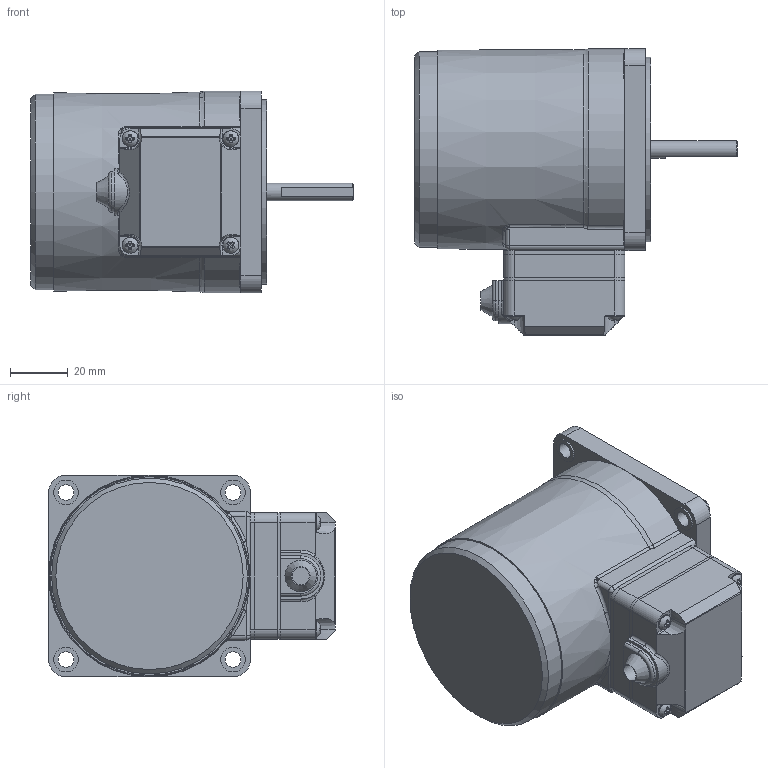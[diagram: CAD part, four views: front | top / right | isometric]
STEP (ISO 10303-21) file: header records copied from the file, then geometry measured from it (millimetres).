
FILE_DESCRIPTION((''),'2;1');
FILE_NAME('D:\김성묵\업무폴더\개발 파일\프로젝트 개발 AB등급\AC표준형 개발자료\90각 이하 표준형 개발\도면작성 자료\3D 도면\홈페이지용 3D 파일\15W MOTOR\T BOX TYPE\S7I15D_T.stp','2015-03-26T15:57:14',('smkim'),(''),'Autodesk Inventor 2012','Autodesk Inventor 2012','');
FILE_SCHEMA(('AUTOMOTIVE_DESIGN { 1 0 10303 214 1 1 1 1 }'));
Length unit declared in the file: millimetre
Products named in the file (8): S7I15D_TCE_1; S7I15GㅁTCE; 6W_T-BOX; 0351002403 70각 단자 BOX 하; 0351002301 70각 단자 BOX 상; 0409000703 CORD BUSH G; 552303400-M3XL34; S7_HOUSING D
Assembly tree (10 placements, depth 3):
  S7I15D_TCE_1
    S7I15GㅁTCE
    6W_T-BOX
      0351002403 70각 단자 BOX 하
      0351002301 70각 단자 BOX 상
      0409000703 CORD BUSH G
      552303400-M3XL34  x4
    S7_HOUSING D
Bounding box: 112 x 99.5 x 70 mm (x, y, z)
Volume: 344419.9 mm3; surface area: 57859.9 mm2
Topology: 11 solids, 11 shells, 369 faces, 947 edges, 615 vertices
Faces by surface type: plane 175, cylinder 123, bspline 35, torus 18, cone 16, sphere 2
Full cylindrical faces by diameter (mm): 3 x4, 3.5 x4, 3.8 x4, 5.5 x4, 5.6 x4, 6 x1, 8 x3, 8.5 x4, 28 x1, 64 x1, 68 x1
Entity records: 10378 total; most frequent: CARTESIAN_POINT 2741, DIRECTION 1540, ORIENTED_EDGE 1498, EDGE_CURVE 749, AXIS2_PLACEMENT_3D 584, VERTEX_POINT 510, EDGE_LOOP 397, VECTOR 372
